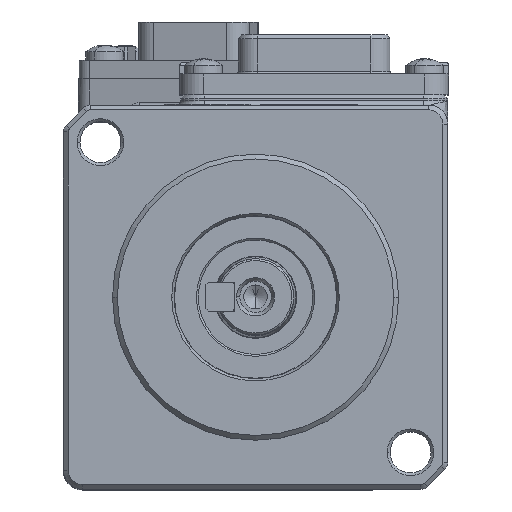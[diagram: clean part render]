
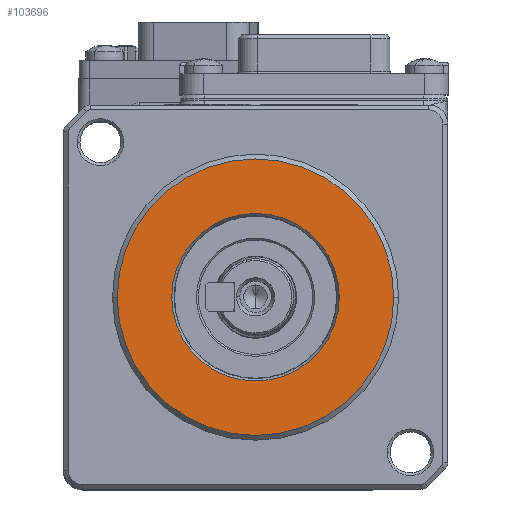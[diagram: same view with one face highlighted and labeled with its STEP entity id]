
A CAD part, top view. The second image highlights one B-rep face of the part: STEP entity #103696.
In plain terms, the highlighted planar face has unit normal (0, 0, 1).
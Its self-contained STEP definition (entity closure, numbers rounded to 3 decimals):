
#2205 = CARTESIAN_POINT ( 'NONE',  ( 0., 15.3, -3. ) ) ;
#3414 = CARTESIAN_POINT ( 'NONE',  ( 0., 0., -3. ) ) ;
#3434 = AXIS2_PLACEMENT_3D ( 'NONE', #39675, #57854, #92678 ) ;
#3966 = EDGE_LOOP ( 'NONE', ( #82176, #98242 ) ) ;
#5826 = CARTESIAN_POINT ( 'NONE',  ( 0., 0., -3. ) ) ;
#10118 = EDGE_CURVE ( 'NONE', #32316, #101104, #27164, .T. ) ;
#14978 = DIRECTION ( 'NONE',  ( -1., 0., 0. ) ) ;
#19510 = EDGE_CURVE ( 'NONE', #39283, #93201, #38216, .T. ) ;
#20478 = AXIS2_PLACEMENT_3D ( 'NONE', #21857, #57193, #14978 ) ;
#21857 = CARTESIAN_POINT ( 'NONE',  ( 0., 0., -3. ) ) ;
#27164 = CIRCLE ( 'NONE', #3434, 14.5 ) ;
#32316 = VERTEX_POINT ( 'NONE', #112344 ) ;
#34345 = DIRECTION ( 'NONE',  ( -1., 0., 0. ) ) ;
#36039 = AXIS2_PLACEMENT_3D ( 'NONE', #5826, #40685, #34345 ) ;
#36704 = EDGE_LOOP ( 'NONE', ( #81078, #98489 ) ) ;
#38216 = CIRCLE ( 'NONE', #105561, 8.789 ) ;
#38829 = DIRECTION ( 'NONE',  ( 0., 0., -1. ) ) ;
#39283 = VERTEX_POINT ( 'NONE', #59413 ) ;
#39675 = CARTESIAN_POINT ( 'NONE',  ( 0., 0., -3. ) ) ;
#40154 = EDGE_CURVE ( 'NONE', #93201, #39283, #88885, .T. ) ;
#40685 = DIRECTION ( 'NONE',  ( 0., 0., -1. ) ) ;
#46121 = FACE_OUTER_BOUND ( 'NONE', #3966, .T. ) ;
#50017 = EDGE_CURVE ( 'NONE', #101104, #32316, #57108, .T. ) ;
#57108 = CIRCLE ( 'NONE', #20478, 14.5 ) ;
#57193 = DIRECTION ( 'NONE',  ( 0., 0., -1. ) ) ;
#57854 = DIRECTION ( 'NONE',  ( 0., 0., -1. ) ) ;
#59413 = CARTESIAN_POINT ( 'NONE',  ( -8.789, 0., -3. ) ) ;
#72429 = DIRECTION ( 'NONE',  ( -1., 0., 0. ) ) ;
#73389 = CARTESIAN_POINT ( 'NONE',  ( -14.5, 0., -3. ) ) ;
#80874 = DIRECTION ( 'NONE',  ( 1., 0., 0. ) ) ;
#81078 = ORIENTED_EDGE ( 'NONE', *, *, #40154, .T. ) ;
#82176 = ORIENTED_EDGE ( 'NONE', *, *, #50017, .F. ) ;
#88327 = PLANE ( 'NONE',  #93125 ) ;
#88885 = CIRCLE ( 'NONE', #36039, 8.789 ) ;
#92678 = DIRECTION ( 'NONE',  ( -1., 0., 0. ) ) ;
#92914 = CARTESIAN_POINT ( 'NONE',  ( 8.789, 0., -3. ) ) ;
#93125 = AXIS2_PLACEMENT_3D ( 'NONE', #2205, #95764, #80874 ) ;
#93201 = VERTEX_POINT ( 'NONE', #92914 ) ;
#95764 = DIRECTION ( 'NONE',  ( 0., 0., 1. ) ) ;
#96912 = FACE_BOUND ( 'NONE', #36704, .T. ) ;
#98242 = ORIENTED_EDGE ( 'NONE', *, *, #10118, .F. ) ;
#98489 = ORIENTED_EDGE ( 'NONE', *, *, #19510, .T. ) ;
#101104 = VERTEX_POINT ( 'NONE', #73389 ) ;
#103696 = ADVANCED_FACE ( 'NONE', ( #46121, #96912 ), #88327, .T. ) ;
#105561 = AXIS2_PLACEMENT_3D ( 'NONE', #3414, #38829, #72429 ) ;
#112344 = CARTESIAN_POINT ( 'NONE',  ( 14.5, 0., -3. ) ) ;
